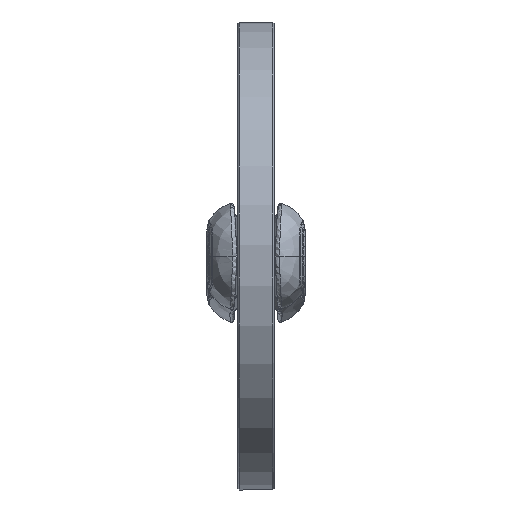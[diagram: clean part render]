
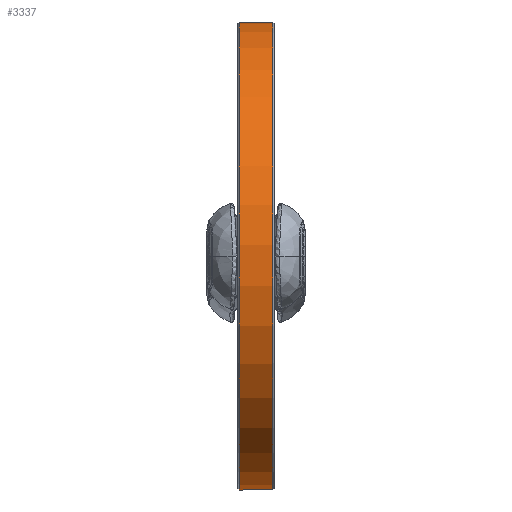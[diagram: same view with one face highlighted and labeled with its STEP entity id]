
A CAD part, top view. The second image highlights one B-rep face of the part: STEP entity #3337.
In plain terms, the highlighted cylindrical face has radius 962.5 mm (diameter 1925 mm), a full revolution.
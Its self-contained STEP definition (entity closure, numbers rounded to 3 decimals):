
#670=CYLINDRICAL_SURFACE($,#3709,962.5);
#798=FACE_BOUND($,#1363,.T.);
#1023=FACE_OUTER_BOUND($,#1362,.T.);
#1362=EDGE_LOOP($,(#3054));
#1363=EDGE_LOOP($,(#3055));
#1563=CIRCLE($,#3708,962.5);
#1564=CIRCLE($,#3710,962.5);
#1851=VERTEX_POINT($,#14461);
#1852=VERTEX_POINT($,#14464);
#2257=EDGE_CURVE($,#1851,#1851,#1563,.T.);
#2258=EDGE_CURVE($,#1852,#1852,#1564,.T.);
#3054=ORIENTED_EDGE($,*,*,#2258,.F.);
#3055=ORIENTED_EDGE($,*,*,#2257,.F.);
#3337=ADVANCED_FACE($,(#1023,#798),#670,.T.);
#3708=AXIS2_PLACEMENT_3D($,#14462,#4473,#4474);
#3709=AXIS2_PLACEMENT_3D($,#14463,#4475,#4476);
#3710=AXIS2_PLACEMENT_3D($,#14465,#4477,#4478);
#4473=DIRECTION('center_axis',(0.,0.,-1.));
#4474=DIRECTION('ref_axis',(-1.,0.,0.));
#4475=DIRECTION('center_axis',(0.,0.,1.));
#4476=DIRECTION('ref_axis',(-1.,0.,0.));
#4477=DIRECTION('center_axis',(0.,0.,1.));
#4478=DIRECTION('ref_axis',(-1.,0.,0.));
#14461=CARTESIAN_POINT('',(962.5,0.,-69.));
#14462=CARTESIAN_POINT('Origin',(0.,0.,-69.));
#14463=CARTESIAN_POINT('Origin',(0.,0.,0.));
#14464=CARTESIAN_POINT('',(962.5,0.,69.));
#14465=CARTESIAN_POINT('Origin',(0.,0.,69.));
